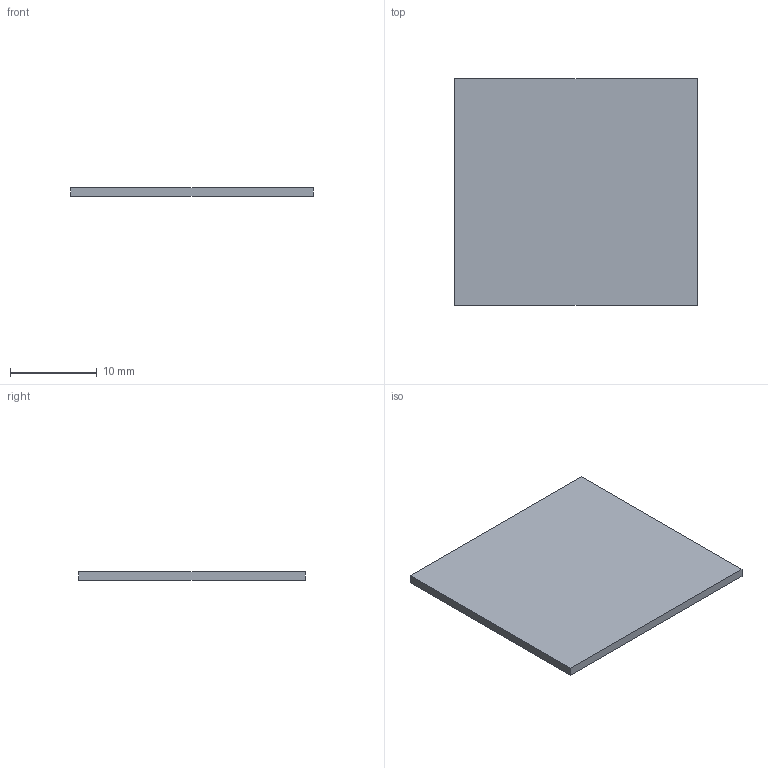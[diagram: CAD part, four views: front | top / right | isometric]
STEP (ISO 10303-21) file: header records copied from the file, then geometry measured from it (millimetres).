
FILE_DESCRIPTION(('OneSpaceDesigner STEP Export'),'2;1');
FILE_NAME('1415021_d_mbk_e-select.stp','2004-07-15T 9:06:03',(''),(''),'OneSpace Designer STEP processor (Jan. 2003) for AP203(Solid Model)','OneSpace Designer 12.01C 26-Mar-2004 (C) CoCreate Software GmbH','');
FILE_SCHEMA(('CONFIG_CONTROL_DESIGN'));
Length unit declared in the file: millimetre
Products named in the file (2): 1415021_d_mbk_e-select
Assembly tree (1 placements, depth 2):
  1415021_d_mbk_e-select
    1415021_d_mbk_e-select
Bounding box: 28 x 26.2 x 1 mm (x, y, z)
Volume: 733.6 mm3; surface area: 1575.6 mm2
Topology: 1 solids, 1 shells, 6 faces, 12 edges, 8 vertices
Faces by surface type: plane 6
Entity records: 378 total; most frequent: CARTESIAN_POINT 28, DIRECTION 28, ORIENTED_EDGE 24, PERSON 16, ORGANIZATION 16, PERSON_AND_ORGANIZATION 16, VECTOR 12, LINE 12
